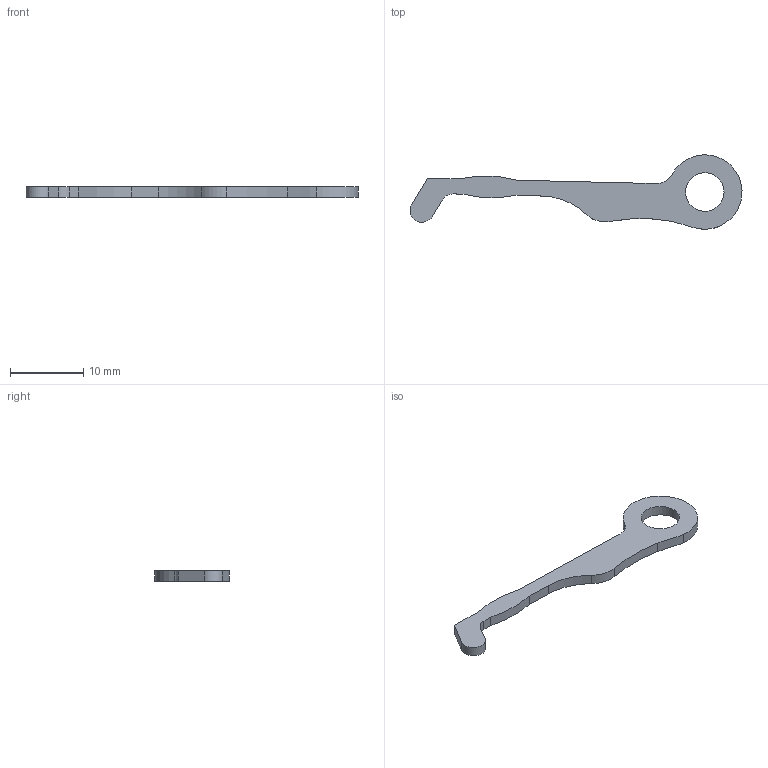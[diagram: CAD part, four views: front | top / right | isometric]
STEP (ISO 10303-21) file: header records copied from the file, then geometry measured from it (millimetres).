
FILE_DESCRIPTION(/* description */ (''),/* implementation_level */ '2;1');
FILE_NAME(/* name */ 'D:\Desktop\WatchCAdFiles\ScaledTo_3.5\New folder\lever.stp',/* time_stamp */ '2019-03-14T16:49:38+01:00',/* author */ ('fkhad'),/* organization */ (''),/* preprocessor_version */ 'ST-DEVELOPER v17',/* originating_system */ 'Autodesk Inventor 2018',/* authorisation */ '');
FILE_SCHEMA (('AUTOMOTIVE_DESIGN { 1 0 10303 214 3 1 1 }'));
Length unit declared in the file: inch
Products named in the file (1): Solid7
Bounding box: 45.26 x 10.14 x 1.4 mm (x, y, z)
Volume: 261.1 mm3; surface area: 542.4 mm2
Topology: 1 solids, 1 shells, 19 faces, 53 edges, 36 vertices
Faces by surface type: cylinder 10, plane 8, bspline 1
Full cylindrical faces by diameter (mm): 5.25 x1
Entity records: 702 total; most frequent: CARTESIAN_POINT 122, DIRECTION 111, ORIENTED_EDGE 106, EDGE_CURVE 53, AXIS2_PLACEMENT_3D 41, VERTEX_POINT 36, LINE 29, VECTOR 29
